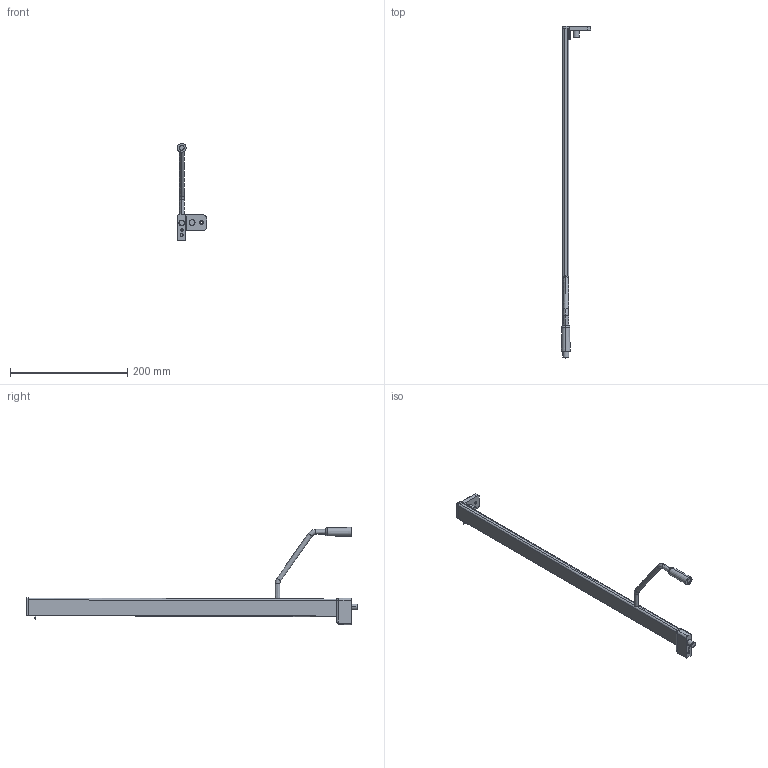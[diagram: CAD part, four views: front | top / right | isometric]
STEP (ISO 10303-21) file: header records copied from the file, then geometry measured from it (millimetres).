
FILE_DESCRIPTION (( 'STEP AP214' ), '1' );
FILE_NAME ('_2S_REL_7606_NL550_LI_Frontstütze.step', '2010-07-01T14:42:08', ( 'grass' ), ( '' ), 'SwSTEP 2.0', 'SolidWorks 2009', '' );
FILE_SCHEMA (( 'AUTOMOTIVE_DESIGN' ));
Length unit declared in the file: millimetre
Products named in the file (1): _2S_REL_7606_NL550_LI_Frontstütze
Bounding box: 49.75 x 565.5 x 165.5 mm (x, y, z)
Volume: 199986.2 mm3; surface area: 55279.2 mm2
Topology: 2 solids, 2 shells, 142 faces, 341 edges, 207 vertices
Faces by surface type: cylinder 60, plane 46, bspline 16, torus 12, cone 6, sphere 2
Entity records: 5281 total; most frequent: CARTESIAN_POINT 2077, ORIENTED_EDGE 678, DIRECTION 655, EDGE_CURVE 339, AXIS2_PLACEMENT_3D 251, VERTEX_POINT 207, LINE 153, VECTOR 153
